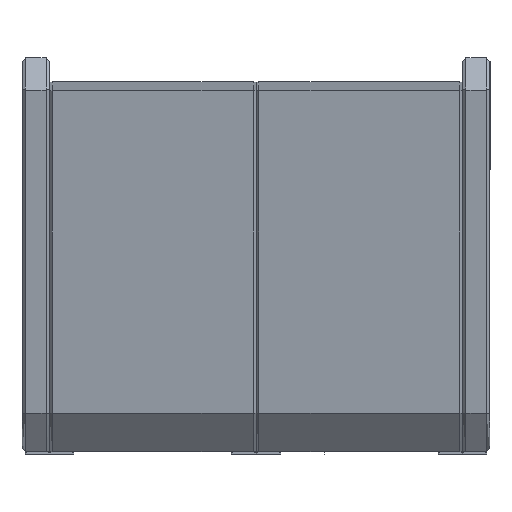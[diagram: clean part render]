
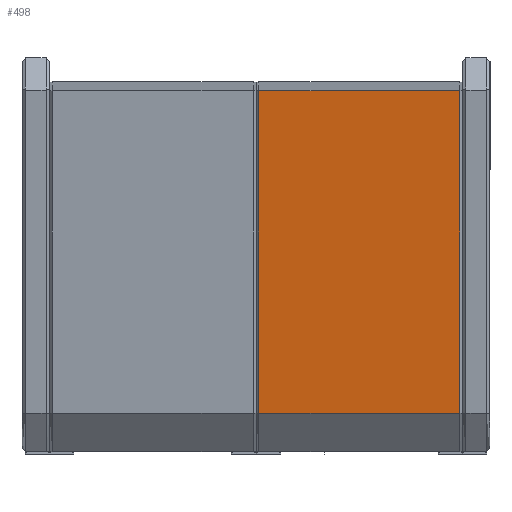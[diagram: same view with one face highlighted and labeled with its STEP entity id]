
A CAD part, left-side view. The second image highlights one B-rep face of the part: STEP entity #498.
In plain terms, the highlighted planar face has unit normal (-0.991, 0, -0.131).
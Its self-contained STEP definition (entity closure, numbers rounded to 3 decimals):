
#83=B_SPLINE_CURVE_WITH_KNOTS('',1,(#12541,#12542),.UNSPECIFIED.,.F.,.F.,
(2,2),(0.,730.),.UNSPECIFIED.);
#498=ADVANCED_FACE('',(#1098),#8358,.T.);
#1098=FACE_OUTER_BOUND('',#1698,.T.);
#1698=EDGE_LOOP('',(#2964,#2965,#2966,#2967));
#2964=ORIENTED_EDGE('',*,*,#5214,.T.);
#2965=ORIENTED_EDGE('',*,*,#5231,.T.);
#2966=ORIENTED_EDGE('',*,*,#5193,.F.);
#2967=ORIENTED_EDGE('',*,*,#5233,.F.);
#5193=EDGE_CURVE('',#7707,#7709,#6586,.T.);
#5214=EDGE_CURVE('',#7722,#7724,#6600,.T.);
#5231=EDGE_CURVE('',#7724,#7709,#83,.T.);
#5233=EDGE_CURVE('',#7722,#7707,#6611,.T.);
#6586=(
BOUNDED_CURVE()
B_SPLINE_CURVE(1,(#12303,#12304),.UNSPECIFIED.,.F.,.F.)
B_SPLINE_CURVE_WITH_KNOTS((2,2),(0.,1182.161),.UNSPECIFIED.)
CURVE()
GEOMETRIC_REPRESENTATION_ITEM()
RATIONAL_B_SPLINE_CURVE((1.,1.))
REPRESENTATION_ITEM('')
);
#6600=(
BOUNDED_CURVE()
B_SPLINE_CURVE(1,(#12441,#12442),.UNSPECIFIED.,.F.,.F.)
B_SPLINE_CURVE_WITH_KNOTS((2,2),(0.,1182.161),.UNSPECIFIED.)
CURVE()
GEOMETRIC_REPRESENTATION_ITEM()
RATIONAL_B_SPLINE_CURVE((1.,1.))
REPRESENTATION_ITEM('')
);
#6611=(
BOUNDED_CURVE()
B_SPLINE_CURVE(1,(#12546,#12547),.UNSPECIFIED.,.F.,.F.)
B_SPLINE_CURVE_WITH_KNOTS((2,2),(0.,730.),.UNSPECIFIED.)
CURVE()
GEOMETRIC_REPRESENTATION_ITEM()
RATIONAL_B_SPLINE_CURVE((1.,1.))
REPRESENTATION_ITEM('')
);
#7707=VERTEX_POINT('',#11972);
#7709=VERTEX_POINT('',#11974);
#7722=VERTEX_POINT('',#11987);
#7724=VERTEX_POINT('',#11989);
#8358=PLANE('',#9002);
#9002=AXIS2_PLACEMENT_3D('',#11935,#9109,$);
#9109=DIRECTION('',(-0.991,0.,-0.131));
#11935=CARTESIAN_POINT('',(-1514.737,-10.,1319.839));
#11972=CARTESIAN_POINT('',(-1514.737,-740.,1319.839));
#11974=CARTESIAN_POINT('',(-1359.412,-740.,147.926));
#11987=CARTESIAN_POINT('',(-1514.737,-10.,1319.839));
#11989=CARTESIAN_POINT('',(-1359.412,-10.,147.926));
#12303=CARTESIAN_POINT('',(-1514.737,-740.,1319.839));
#12304=CARTESIAN_POINT('',(-1359.412,-740.,147.926));
#12441=CARTESIAN_POINT('',(-1514.737,-10.,1319.839));
#12442=CARTESIAN_POINT('',(-1359.412,-10.,147.926));
#12541=CARTESIAN_POINT('',(-1359.412,-10.,147.926));
#12542=CARTESIAN_POINT('',(-1359.412,-740.,147.926));
#12546=CARTESIAN_POINT('',(-1514.737,-10.,1319.839));
#12547=CARTESIAN_POINT('',(-1514.737,-740.,1319.839));
